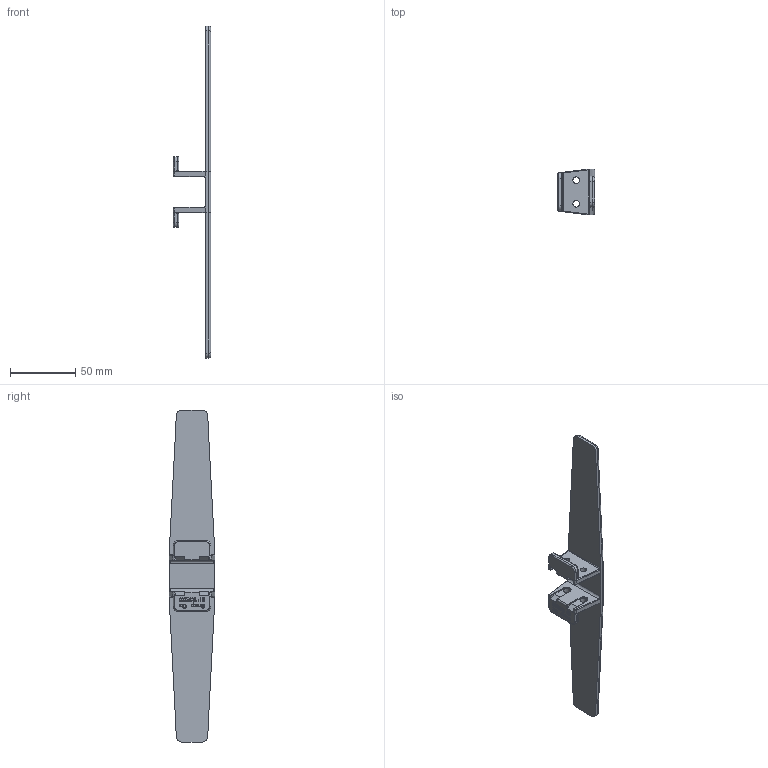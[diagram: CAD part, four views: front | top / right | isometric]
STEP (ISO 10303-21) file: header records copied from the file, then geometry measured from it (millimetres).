
FILE_DESCRIPTION((''),'2;1');
FILE_NAME('P118','2015-12-16T',('bhe'),(''),'CREO PARAMETRIC BY PTC INC, 2015290','CREO PARAMETRIC BY PTC INC, 2015290','');
FILE_SCHEMA(('CONFIG_CONTROL_DESIGN'));
Length unit declared in the file: millimetre
Products named in the file (1): P118
Bounding box: 28.78 x 35.1 x 254 mm (x, y, z)
Volume: 38402.6 mm3; surface area: 21853.5 mm2
Topology: 1 solids, 1 shells, 829 faces, 2290 edges, 1490 vertices
Faces by surface type: plane 675, cylinder 88, bspline 40, torus 26
Entity records: 28056 total; most frequent: CARTESIAN_POINT 7087, ORIENTED_EDGE 4580, DIRECTION 3948, EDGE_CURVE 2290, VECTOR 2010, LINE 2010, VERTEX_POINT 1490, AXIS2_PLACEMENT_3D 969
